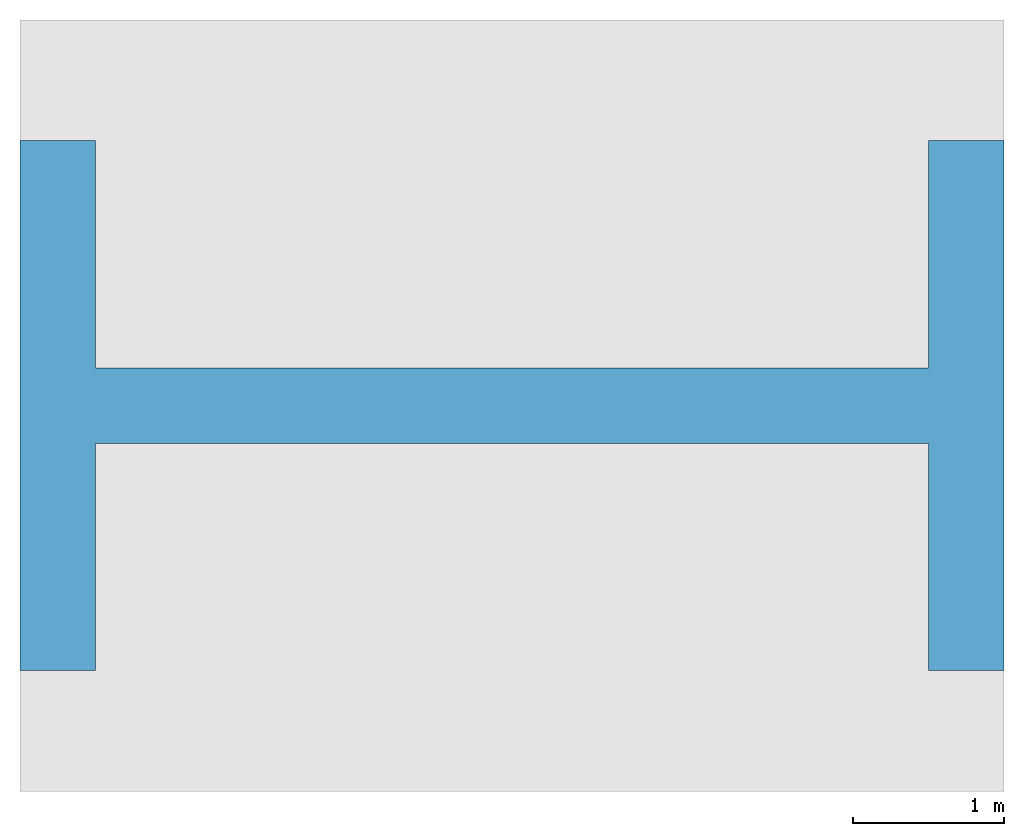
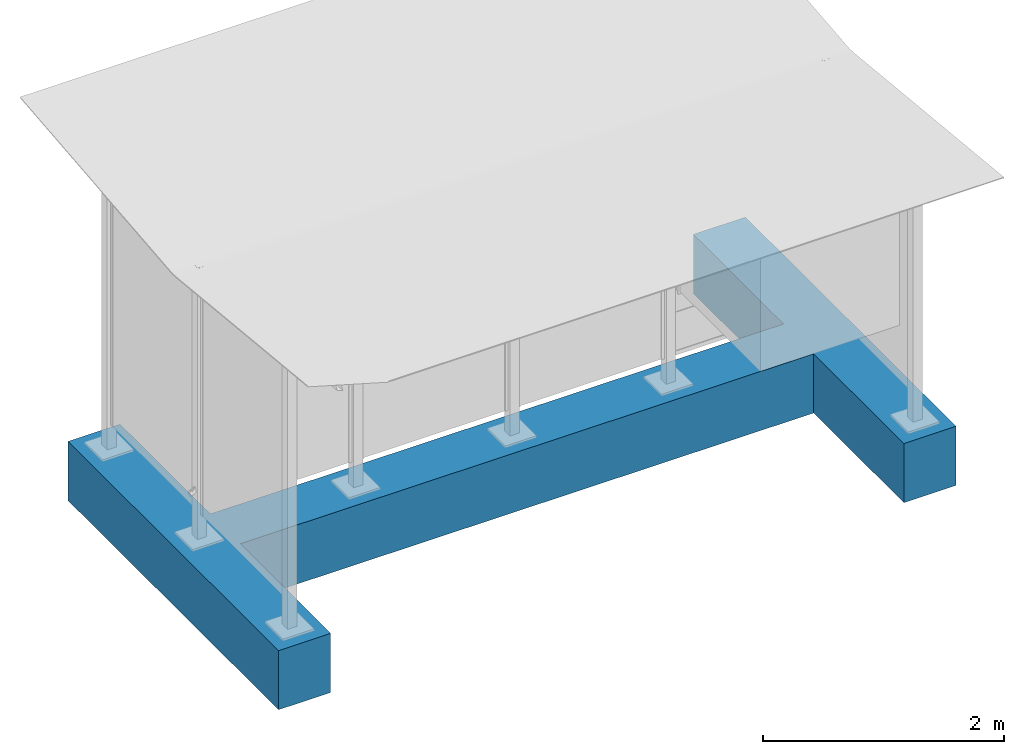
# One storey, incomplete: 1 slab.
"""IFC4 building model written with IfcOpenShell, lengths in metres."""

from ifc_helpers import new_model, entity, si_unit, converted_unit, direction, frame, origin, place, context, subcontext, project, spatial, polyline, outline, extrude, material, type_object, element, save


model = new_model("IFC4")

# Units and contexts
model_context = context("Model", 3, precision=1e-05, world=origin(), true_north=direction((6.123031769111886e-17, 1.0)))
body_context = subcontext(model_context, "Body", "Model", "MODEL_VIEW")
ifc_project = project(units=[si_unit("LENGTHUNIT", "METRE"), converted_unit("PLANEANGLEUNIT", "DEGREE", entity("IfcPlaneAngleMeasure", 0.017453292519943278), si_unit("PLANEANGLEUNIT", "RADIAN"), dimensions=[0, 0, 0, 0, 0, 0, 0]), si_unit("AREAUNIT", "SQUARE_METRE")], contexts=[model_context])

# Site, building, storey
site_placement = place(None, origin())
site = spatial("IfcSite", under=ifc_project, at=site_placement, Name="Default", CompositionType="ELEMENT")
building_placement = place(site_placement, origin())
building = spatial("IfcBuilding", under=site, at=building_placement, CompositionType="ELEMENT")
storey_placement = place(building_placement, origin())
storey = spatial("IfcBuildingStorey", under=building, at=storey_placement, Name="Ebene 0", CompositionType="ELEMENT", Elevation=0.0)

# Slab
ifc_material = material(Name="DB_Ortbeton", Category="DB_Beton")
slab_type = type_object("IfcSlabType", Name="DB_Wetterschutzhaus_H-Form_4-feldrig_Fundament:DB_Wetterschutzhaus_H-Form_4-feldrig_Fundament", PredefinedType="BASESLAB", material=ifc_material)
slab_placement = place(storey_placement, origin())
element("IfcSlab", 1, at=slab_placement, inside=storey, type_object=slab_type, Name="DB_Wetterschutzhaus_H-Form_4-feldrig_Fundament:DB_Wetterschutzhaus_H-Form_4-feldrig_Fundament", ObjectType="DB_Wetterschutzhaus_H-Form_4-feldrig_Fundament:DB_Wetterschutzhaus_H-Form_4-feldrig_Fundament", PredefinedType="BASESLAB", context=body_context, shape_type="SweptSolid", body=[
    extrude(outline(polyline([(-1.7857142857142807, -2.7500000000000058), (-1.7857142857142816, -3.250000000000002), (0.21428571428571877, -3.2500000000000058), (1.7142857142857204, -3.2500000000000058), (1.7142857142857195, -2.7500000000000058), (0.21428571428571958, -2.7500000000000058), (0.2142857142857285, 2.7500000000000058), (1.7142857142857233, 2.750000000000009), (1.7142857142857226, 3.2500000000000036), (0.2142857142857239, 3.2500000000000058), (-1.7857142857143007, 3.250000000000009), (-1.7857142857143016, 2.750000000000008), (-0.28571428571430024, 2.7500000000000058), (-0.2857142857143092, -2.7500000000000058), (-1.7857142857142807, -2.7500000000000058)])), frame((3.0, 1.535714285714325, 0.0), z_axis=(0.0, 0.0, -1.0), x_axis=(0.0, 1.0, 0.0)), (0.0, 0.0, -1.0), 0.6000000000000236),
])

save(model, "model.ifc")
